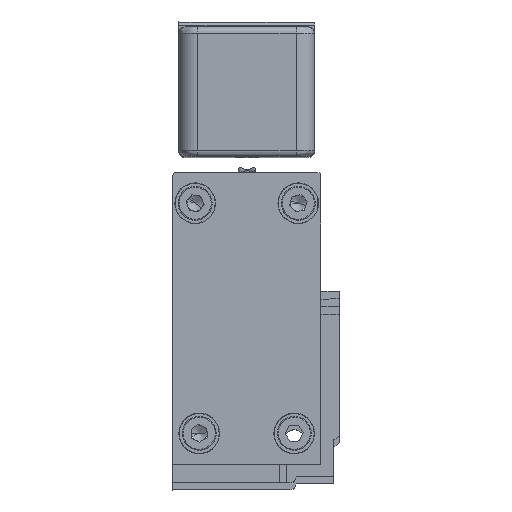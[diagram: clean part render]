
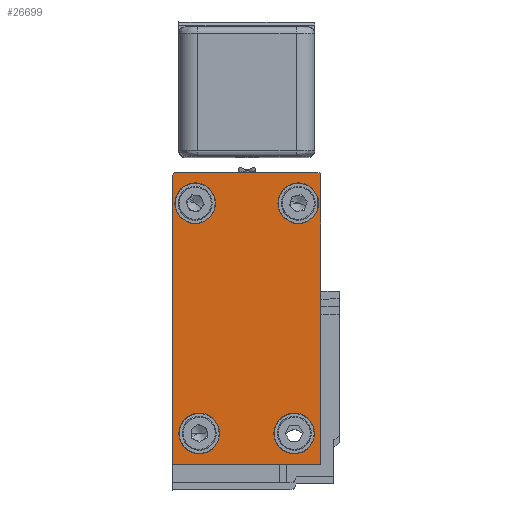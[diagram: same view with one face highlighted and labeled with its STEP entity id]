
A CAD part, top view. The second image highlights one B-rep face of the part: STEP entity #26699.
In plain terms, the highlighted planar face has unit normal (0, 0, 1).
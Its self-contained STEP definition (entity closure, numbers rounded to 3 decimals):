
#293 = VERTEX_POINT ( 'NONE', #13681 ) ;
#402 = CARTESIAN_POINT ( 'NONE',  ( -17.514, 26.371, 3185. ) ) ;
#730 = ORIENTED_EDGE ( 'NONE', *, *, #24935, .T. ) ;
#749 = DIRECTION ( 'NONE',  ( 0., -1., 0. ) ) ;
#758 = DIRECTION ( 'NONE',  ( 0., 1., 0. ) ) ;
#960 = DIRECTION ( 'NONE',  ( 0., 0., -1. ) ) ;
#1407 = DIRECTION ( 'NONE',  ( 0., 1., 0. ) ) ;
#1496 = CARTESIAN_POINT ( 'NONE',  ( -18.014, -20.888, 3185. ) ) ;
#1539 = DIRECTION ( 'NONE',  ( 0., 0., -1. ) ) ;
#1700 = CARTESIAN_POINT ( 'NONE',  ( 5.485, 25.871, 3185. ) ) ;
#1704 = CIRCLE ( 'NONE', #20098, 0.5 ) ;
#1844 = VERTEX_POINT ( 'NONE', #402 ) ;
#1914 = DIRECTION ( 'NONE',  ( 0., 0., -1. ) ) ;
#2190 = FACE_OUTER_BOUND ( 'NONE', #12939, .T. ) ;
#2324 = EDGE_CURVE ( 'NONE', #293, #3213, #26805, .T. ) ;
#3213 = VERTEX_POINT ( 'NONE', #17547 ) ;
#3507 = AXIS2_PLACEMENT_3D ( 'NONE', #19674, #4933, #22101 ) ;
#3835 = AXIS2_PLACEMENT_3D ( 'NONE', #29287, #14784, #31681 ) ;
#4008 = DIRECTION ( 'NONE',  ( -1., 0., 0. ) ) ;
#4126 = CARTESIAN_POINT ( 'NONE',  ( -11.063, 21.401, 3185. ) ) ;
#4221 = DIRECTION ( 'NONE',  ( 0., 1., 0. ) ) ;
#4361 = EDGE_CURVE ( 'NONE', #6964, #30546, #11210, .T. ) ;
#4891 = CIRCLE ( 'NONE', #6372, 3.302 ) ;
#4933 = DIRECTION ( 'NONE',  ( 0., 0., -1. ) ) ;
#4955 = ORIENTED_EDGE ( 'NONE', *, *, #2324, .T. ) ;
#5250 = EDGE_CURVE ( 'NONE', #30546, #15570, #26698, .T. ) ;
#5271 = CARTESIAN_POINT ( 'NONE',  ( 5.637, 21.401, 3185. ) ) ;
#5406 = ORIENTED_EDGE ( 'NONE', *, *, #20851, .T. ) ;
#5435 = EDGE_CURVE ( 'NONE', #6507, #1844, #12541, .T. ) ;
#5594 = CARTESIAN_POINT ( 'NONE',  ( -18.014, -20.888, 3185. ) ) ;
#5703 = CARTESIAN_POINT ( 'NONE',  ( -13.714, -15.887, 3185. ) ) ;
#5861 = VECTOR ( 'NONE', #758, 1000. ) ;
#6310 = EDGE_LOOP ( 'NONE', ( #14283, #21267 ) ) ;
#6342 = EDGE_LOOP ( 'NONE', ( #26513, #730 ) ) ;
#6372 = AXIS2_PLACEMENT_3D ( 'NONE', #5703, #22822, #8204 ) ;
#6507 = VERTEX_POINT ( 'NONE', #14038 ) ;
#6964 = VERTEX_POINT ( 'NONE', #5594 ) ;
#7279 = CARTESIAN_POINT ( 'NONE',  ( -18.014, -20.888, 3185. ) ) ;
#7532 = ORIENTED_EDGE ( 'NONE', *, *, #23910, .T. ) ;
#7536 = CARTESIAN_POINT ( 'NONE',  ( -1.626, -15.887, 3185. ) ) ;
#8012 = VECTOR ( 'NONE', #1407, 1000. ) ;
#8195 = EDGE_CURVE ( 'NONE', #26463, #25150, #9588, .T. ) ;
#8204 = DIRECTION ( 'NONE',  ( -1., 0., 0. ) ) ;
#8601 = VERTEX_POINT ( 'NONE', #19040 ) ;
#8807 = EDGE_CURVE ( 'NONE', #22582, #22714, #22157, .T. ) ;
#8815 = FACE_BOUND ( 'NONE', #24335, .T. ) ;
#9156 = CARTESIAN_POINT ( 'NONE',  ( 5.984, -20.888, 3185. ) ) ;
#9277 = AXIS2_PLACEMENT_3D ( 'NONE', #14661, #31548, #17135 ) ;
#9447 = EDGE_CURVE ( 'NONE', #3213, #293, #4891, .T. ) ;
#9588 = CIRCLE ( 'NONE', #3835, 3.302 ) ;
#9595 = FACE_BOUND ( 'NONE', #6310, .T. ) ;
#9773 = CIRCLE ( 'NONE', #11532, 0.5 ) ;
#9802 = AXIS2_PLACEMENT_3D ( 'NONE', #11906, #28874, #14351 ) ;
#10241 = EDGE_CURVE ( 'NONE', #29897, #29497, #15911, .T. ) ;
#10412 = EDGE_CURVE ( 'NONE', #25212, #6507, #9773, .T. ) ;
#10432 = CARTESIAN_POINT ( 'NONE',  ( 4.978, -15.887, 3185. ) ) ;
#11210 = LINE ( 'NONE', #7279, #23388 ) ;
#11532 = AXIS2_PLACEMENT_3D ( 'NONE', #1700, #18990, #4221 ) ;
#11736 = ORIENTED_EDGE ( 'NONE', *, *, #4361, .T. ) ;
#11906 = CARTESIAN_POINT ( 'NONE',  ( 2.335, 21.401, 3185. ) ) ;
#12305 = CARTESIAN_POINT ( 'NONE',  ( 5.485, 26.371, 3185. ) ) ;
#12541 = LINE ( 'NONE', #12305, #18272 ) ;
#12660 = LINE ( 'NONE', #22773, #19139 ) ;
#12939 = EDGE_LOOP ( 'NONE', ( #16188, #7532, #21382, #27616, #27289, #5406, #11736 ) ) ;
#12957 = CARTESIAN_POINT ( 'NONE',  ( 5.984, 25.871, 3185. ) ) ;
#13546 = CARTESIAN_POINT ( 'NONE',  ( -17.514, 25.871, 3185. ) ) ;
#13681 = CARTESIAN_POINT ( 'NONE',  ( -10.412, -15.887, 3185. ) ) ;
#13752 = AXIS2_PLACEMENT_3D ( 'NONE', #1496, #18792, #4008 ) ;
#14038 = CARTESIAN_POINT ( 'NONE',  ( 5.485, 26.371, 3185. ) ) ;
#14283 = ORIENTED_EDGE ( 'NONE', *, *, #17481, .T. ) ;
#14351 = DIRECTION ( 'NONE',  ( -1., 0., 0. ) ) ;
#14661 = CARTESIAN_POINT ( 'NONE',  ( 1.676, -15.887, 3185. ) ) ;
#14784 = DIRECTION ( 'NONE',  ( 0., 0., -1. ) ) ;
#15348 = FACE_BOUND ( 'NONE', #6342, .T. ) ;
#15570 = VERTEX_POINT ( 'NONE', #26453 ) ;
#15805 = CARTESIAN_POINT ( 'NONE',  ( -14.365, 21.401, 3185. ) ) ;
#15911 = CIRCLE ( 'NONE', #17149, 3.302 ) ;
#16002 = DIRECTION ( 'NONE',  ( 0., 1., 0. ) ) ;
#16133 = FACE_BOUND ( 'NONE', #16360, .T. ) ;
#16188 = ORIENTED_EDGE ( 'NONE', *, *, #5250, .T. ) ;
#16360 = EDGE_LOOP ( 'NONE', ( #26807, #17908 ) ) ;
#16378 = CARTESIAN_POINT ( 'NONE',  ( -14.365, 21.401, 3185. ) ) ;
#16750 = CARTESIAN_POINT ( 'NONE',  ( -13.714, -15.887, 3185. ) ) ;
#17135 = DIRECTION ( 'NONE',  ( -1., 0., 0. ) ) ;
#17149 = AXIS2_PLACEMENT_3D ( 'NONE', #15805, #960, #18279 ) ;
#17341 = AXIS2_PLACEMENT_3D ( 'NONE', #16378, #1539, #18832 ) ;
#17481 = EDGE_CURVE ( 'NONE', #29497, #29897, #24404, .T. ) ;
#17547 = CARTESIAN_POINT ( 'NONE',  ( -17.017, -15.887, 3185. ) ) ;
#17908 = ORIENTED_EDGE ( 'NONE', *, *, #19475, .T. ) ;
#17956 = CARTESIAN_POINT ( 'NONE',  ( -0.967, 21.401, 3185. ) ) ;
#18040 = CARTESIAN_POINT ( 'NONE',  ( 5.984, 7.11, 3185. ) ) ;
#18272 = VECTOR ( 'NONE', #31643, 1000. ) ;
#18279 = DIRECTION ( 'NONE',  ( -1., 0., 0. ) ) ;
#18689 = PLANE ( 'NONE',  #13752 ) ;
#18792 = DIRECTION ( 'NONE',  ( 0., 0., 1. ) ) ;
#18832 = DIRECTION ( 'NONE',  ( -1., 0., 0. ) ) ;
#18990 = DIRECTION ( 'NONE',  ( 0., 0., 1. ) ) ;
#19040 = CARTESIAN_POINT ( 'NONE',  ( -18.014, 25.871, 3185. ) ) ;
#19116 = CIRCLE ( 'NONE', #3507, 3.302 ) ;
#19139 = VECTOR ( 'NONE', #749, 1000. ) ;
#19181 = DIRECTION ( 'NONE',  ( -1., 0., 0. ) ) ;
#19469 = AXIS2_PLACEMENT_3D ( 'NONE', #16750, #1914, #19181 ) ;
#19475 = EDGE_CURVE ( 'NONE', #22714, #22582, #19116, .T. ) ;
#19674 = CARTESIAN_POINT ( 'NONE',  ( 1.676, -15.887, 3185. ) ) ;
#20098 = AXIS2_PLACEMENT_3D ( 'NONE', #13546, #30472, #16002 ) ;
#20851 = EDGE_CURVE ( 'NONE', #8601, #6964, #12660, .T. ) ;
#21267 = ORIENTED_EDGE ( 'NONE', *, *, #10241, .T. ) ;
#21382 = ORIENTED_EDGE ( 'NONE', *, *, #10412, .T. ) ;
#21883 = ORIENTED_EDGE ( 'NONE', *, *, #9447, .T. ) ;
#22101 = DIRECTION ( 'NONE',  ( -1., 0., 0. ) ) ;
#22157 = CIRCLE ( 'NONE', #9277, 3.302 ) ;
#22582 = VERTEX_POINT ( 'NONE', #7536 ) ;
#22714 = VERTEX_POINT ( 'NONE', #10432 ) ;
#22773 = CARTESIAN_POINT ( 'NONE',  ( -18.014, 25.871, 3185. ) ) ;
#22822 = DIRECTION ( 'NONE',  ( 0., 0., -1. ) ) ;
#23388 = VECTOR ( 'NONE', #24358, 1000. ) ;
#23910 = EDGE_CURVE ( 'NONE', #15570, #25212, #31001, .T. ) ;
#24335 = EDGE_LOOP ( 'NONE', ( #21883, #4955 ) ) ;
#24358 = DIRECTION ( 'NONE',  ( 1., 0., 0. ) ) ;
#24404 = CIRCLE ( 'NONE', #17341, 3.302 ) ;
#24490 = CIRCLE ( 'NONE', #9802, 3.302 ) ;
#24935 = EDGE_CURVE ( 'NONE', #25150, #26463, #24490, .T. ) ;
#25150 = VERTEX_POINT ( 'NONE', #5271 ) ;
#25212 = VERTEX_POINT ( 'NONE', #12957 ) ;
#26453 = CARTESIAN_POINT ( 'NONE',  ( 5.984, 7.11, 3185. ) ) ;
#26463 = VERTEX_POINT ( 'NONE', #17956 ) ;
#26513 = ORIENTED_EDGE ( 'NONE', *, *, #8195, .T. ) ;
#26698 = LINE ( 'NONE', #9156, #8012 ) ;
#26699 = ADVANCED_FACE ( 'NONE', ( #9595, #15348, #16133, #8815, #2190 ), #18689, .T. ) ;
#26805 = CIRCLE ( 'NONE', #19469, 3.302 ) ;
#26807 = ORIENTED_EDGE ( 'NONE', *, *, #8807, .T. ) ;
#27289 = ORIENTED_EDGE ( 'NONE', *, *, #27318, .F. ) ;
#27318 = EDGE_CURVE ( 'NONE', #8601, #1844, #1704, .T. ) ;
#27616 = ORIENTED_EDGE ( 'NONE', *, *, #5435, .T. ) ;
#28813 = CARTESIAN_POINT ( 'NONE',  ( 5.984, -20.888, 3185. ) ) ;
#28874 = DIRECTION ( 'NONE',  ( 0., 0., -1. ) ) ;
#29271 = CARTESIAN_POINT ( 'NONE',  ( -17.667, 21.401, 3185. ) ) ;
#29287 = CARTESIAN_POINT ( 'NONE',  ( 2.335, 21.401, 3185. ) ) ;
#29497 = VERTEX_POINT ( 'NONE', #29271 ) ;
#29897 = VERTEX_POINT ( 'NONE', #4126 ) ;
#30472 = DIRECTION ( 'NONE',  ( 0., 0., -1. ) ) ;
#30546 = VERTEX_POINT ( 'NONE', #28813 ) ;
#31001 = LINE ( 'NONE', #18040, #5861 ) ;
#31548 = DIRECTION ( 'NONE',  ( 0., 0., -1. ) ) ;
#31643 = DIRECTION ( 'NONE',  ( -1., 0., 0. ) ) ;
#31681 = DIRECTION ( 'NONE',  ( -1., 0., 0. ) ) ;
